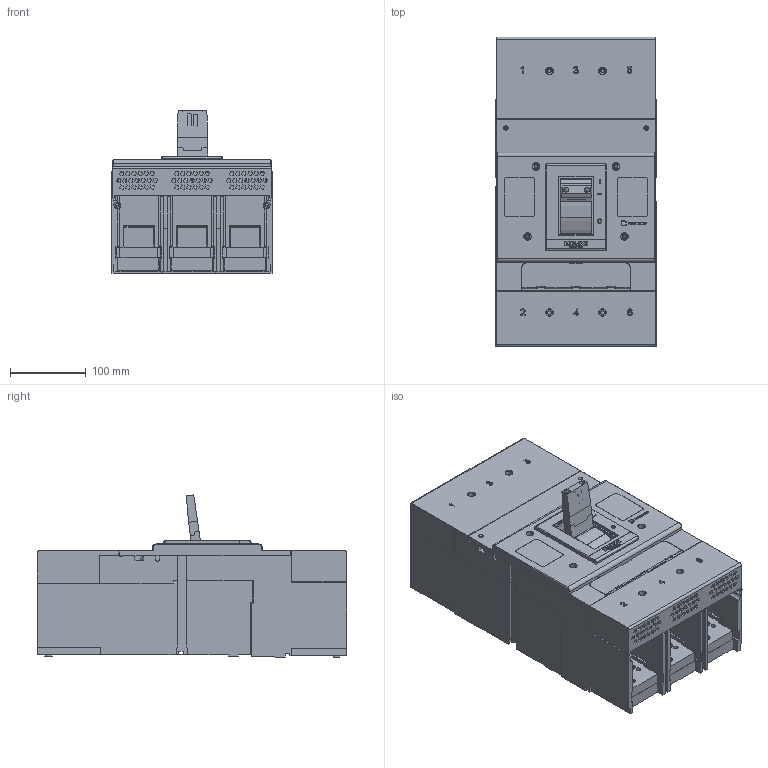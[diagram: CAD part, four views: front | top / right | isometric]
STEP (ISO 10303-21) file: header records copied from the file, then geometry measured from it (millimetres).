
FILE_DESCRIPTION((''),'2;1');
FILE_NAME('ETKM1E-1600_SW0001','2022-06-16T',('zhongyao.huang'),(''),'PRO/ENGINEER BY PARAMETRIC TECHNOLOGY CORPORATION, 2015440','PRO/ENGINEER BY PARAMETRIC TECHNOLOGY CORPORATION, 2015440','');
FILE_SCHEMA(('CONFIG_CONTROL_DESIGN'));
Products named in the file (1): ETKM1E-1600_SW0001
Bounding box: 211 x 408.55 x 213.92 mm (x, y, z)
Volume: 3821286 mm3; surface area: 1597783.1 mm2
Topology: 3 solids, 3 shells, 6606 faces, 19522 edges, 12977 vertices
Faces by surface type: plane 5028, cylinder 1320, torus 125, cone 62, extrusion 51, bspline 11, sphere 9
Entity records: 224047 total; most frequent: CARTESIAN_POINT 43905, ORIENTED_EDGE 39024, DIRECTION 35553, EDGE_CURVE 19512, VECTOR 15711, LINE 15660, VERTEX_POINT 12977, AXIS2_PLACEMENT_3D 9921
